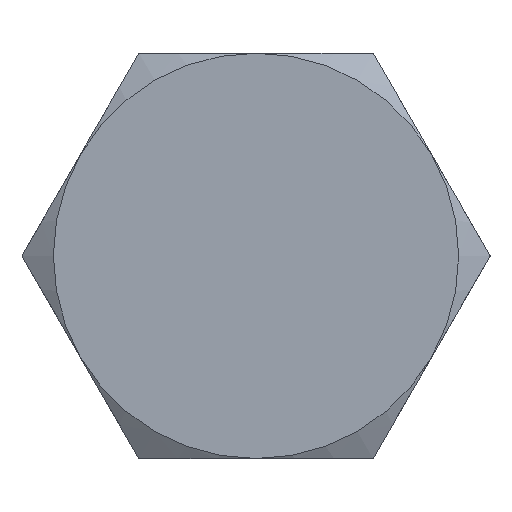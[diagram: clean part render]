
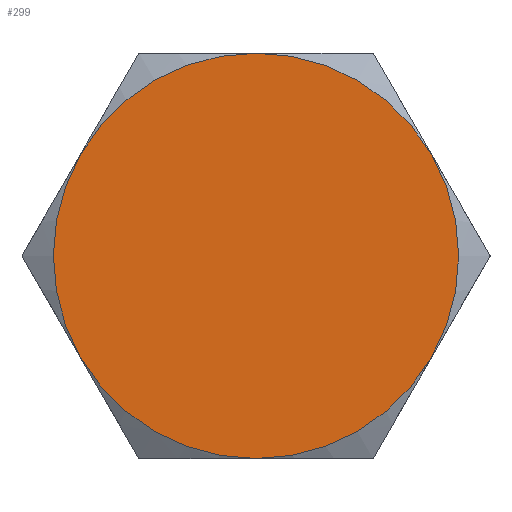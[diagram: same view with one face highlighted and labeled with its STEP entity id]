
A CAD part, top view. The second image highlights one B-rep face of the part: STEP entity #299.
In plain terms, the highlighted planar face has unit normal (0, 0, 1).
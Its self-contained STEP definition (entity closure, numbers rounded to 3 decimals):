
#30=PLANE('',#346);
#128=ORIENTED_EDGE('',*,*,#186,.T.);
#186=EDGE_CURVE('',#220,#220,#236,.T.);
#220=VERTEX_POINT('',#514);
#236=CIRCLE('',#345,6.495);
#252=EDGE_LOOP('',(#128));
#274=FACE_BOUND('',#252,.T.);
#299=ADVANCED_FACE('',(#274),#30,.F.);
#345=AXIS2_PLACEMENT_3D('',#513,#425,#426);
#346=AXIS2_PLACEMENT_3D('',#545,#427,#428);
#425=DIRECTION('',(0.,0.,1.));
#426=DIRECTION('',(0.,-1.,0.));
#427=DIRECTION('',(0.,0.,-1.));
#428=DIRECTION('',(0.,1.,0.));
#513=CARTESIAN_POINT('',(0.,0.,5.3));
#514=CARTESIAN_POINT('',(0.,-6.495,5.3));
#545=CARTESIAN_POINT('',(0.,-6.495,5.3));
